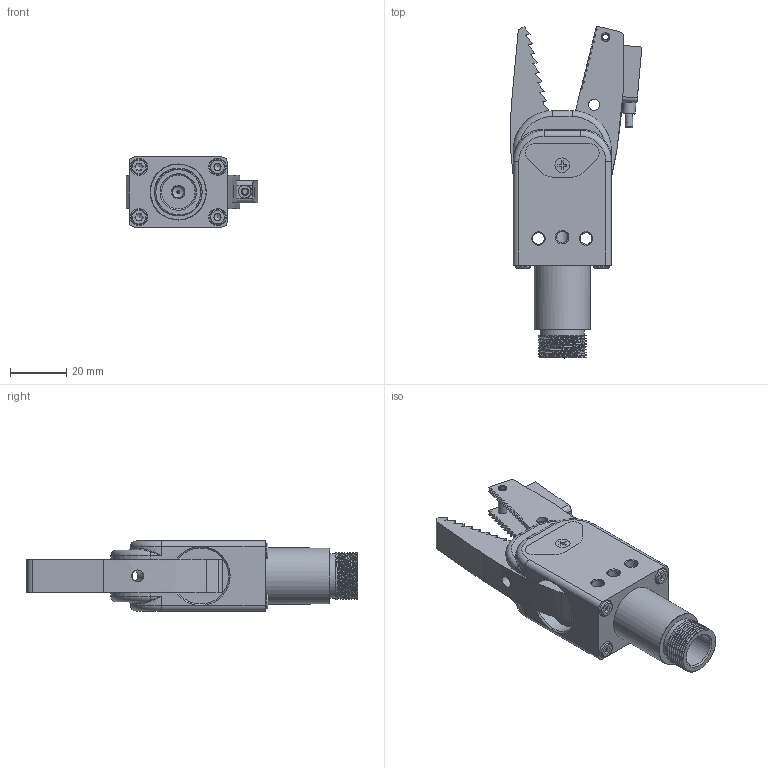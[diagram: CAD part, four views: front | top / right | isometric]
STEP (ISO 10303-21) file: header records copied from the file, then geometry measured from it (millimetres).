
FILE_DESCRIPTION(/* description */ (''),/* implementation_level */ '2;1');
FILE_NAME(/* name */ 'GR20B-20-CN.stp',/* time_stamp */ '2023-03-08T14:21:51+08:00',/* author */ (''),/* organization */ (''),/* preprocessor_version */ 'ST-DEVELOPER v16',/* originating_system */ 'SIEMENS PLM Software NX 10.0',/* authorisation */ '');
FILE_SCHEMA (('AUTOMOTIVE_DESIGN { 1 0 10303 214 3 1 1 1 }'));
Length unit declared in the file: millimetre
Products named in the file (1): Admi115498B06j5e
Bounding box: 47 x 118.39 x 25 mm (x, y, z)
Volume: 51543.5 mm3; surface area: 23143 mm2
Topology: 3 solids, 15 shells, 624 faces, 1568 edges, 993 vertices
Faces by surface type: plane 325, cylinder 151, cone 96, bspline 34, torus 18
Full cylindrical faces by diameter (mm): 0.8 x1, 2.5 x4, 3 x30, 3.2 x2, 3.4 x4, 3.541 x4, 4 x7, 4.038 x2, 4.2 x7, 4.3 x1, 4.5 x1, 5 x4, 5.2 x1, 5.5 x4, 6 x4, 7.8 x2, 12 x1, 15.8 x1, 20 x1
Entity records: 27002 total; most frequent: CARTESIAN_POINT 8913, DIRECTION 2774, ORIENTED_EDGE 2632, EDGE_CURVE 1316, AXIS2_PLACEMENT_3D 1008, VERTEX_POINT 936, EDGE_LOOP 874, LINE 758
